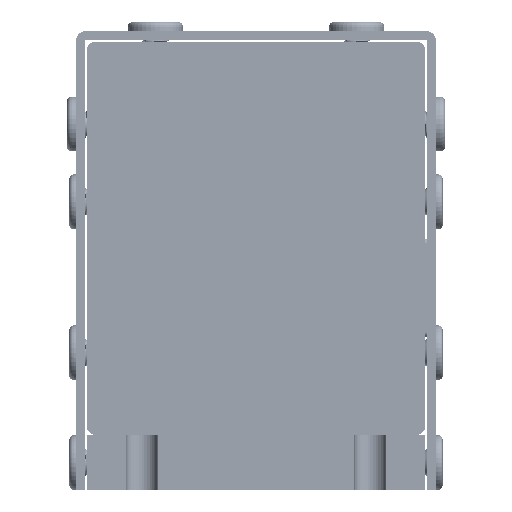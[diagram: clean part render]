
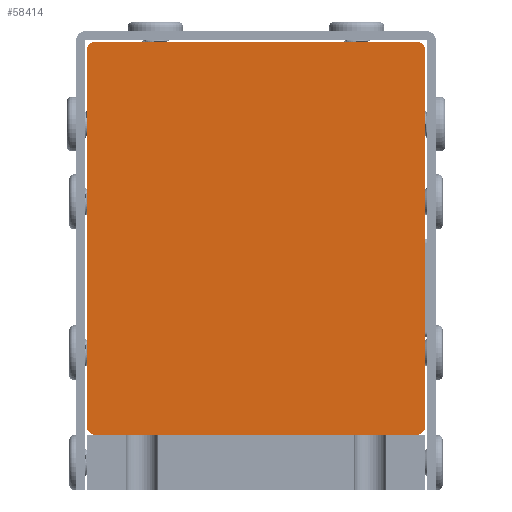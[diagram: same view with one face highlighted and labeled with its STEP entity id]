
A CAD part, left-side view. The second image highlights one B-rep face of the part: STEP entity #58414.
In plain terms, the highlighted planar face has unit normal (-1, 0, 0) as drawn and (0, 1, 0) by its records, which use the part's own axes.
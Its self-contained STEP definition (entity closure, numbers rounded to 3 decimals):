
#830 = EDGE_CURVE ( 'NONE', #1548, #50626, #30115, .T. ) ;
#1192 = EDGE_CURVE ( 'NONE', #24780, #50626, #24941, .T. ) ;
#1548 = VERTEX_POINT ( 'NONE', #71436 ) ;
#1833 = DIRECTION ( 'NONE',  ( -1., 0., 0. ) ) ;
#3787 = ORIENTED_EDGE ( 'NONE', *, *, #26422, .T. ) ;
#4420 = DIRECTION ( 'NONE',  ( 0., 0., -1. ) ) ;
#5844 = CARTESIAN_POINT ( 'NONE',  ( -21., 69.5, 42. ) ) ;
#7260 = AXIS2_PLACEMENT_3D ( 'NONE', #30498, #43712, #4420 ) ;
#7265 = ORIENTED_EDGE ( 'NONE', *, *, #830, .T. ) ;
#7877 = AXIS2_PLACEMENT_3D ( 'NONE', #11727, #57676, #18283 ) ;
#11091 = EDGE_CURVE ( 'NONE', #14323, #34456, #28890, .T. ) ;
#11727 = CARTESIAN_POINT ( 'NONE',  ( 15., 69.5, 1. ) ) ;
#13602 = EDGE_CURVE ( 'NONE', #14323, #62094, #23793, .T. ) ;
#14323 = VERTEX_POINT ( 'NONE', #51102 ) ;
#14892 = AXIS2_PLACEMENT_3D ( 'NONE', #18983, #65027, #25600 ) ;
#16423 = EDGE_LOOP ( 'NONE', ( #67955, #19224, #60805, #49595, #3787, #7265, #57259, #63632 ) ) ;
#16741 = DIRECTION ( 'NONE',  ( 0., 1., 0. ) ) ;
#18283 = DIRECTION ( 'NONE',  ( 0., 0., -1. ) ) ;
#18751 = FACE_OUTER_BOUND ( 'NONE', #16423, .T. ) ;
#18983 = CARTESIAN_POINT ( 'NONE',  ( 15., 69.5, 42. ) ) ;
#19224 = ORIENTED_EDGE ( 'NONE', *, *, #13602, .T. ) ;
#19368 = DIRECTION ( 'NONE',  ( 0., 0., -1. ) ) ;
#20398 = EDGE_CURVE ( 'NONE', #24780, #34456, #41063, .T. ) ;
#21109 = VECTOR ( 'NONE', #81102, 1000. ) ;
#21128 = AXIS2_PLACEMENT_3D ( 'NONE', #41102, #16741, #19368 ) ;
#23397 = DIRECTION ( 'NONE',  ( 0., 1., 0. ) ) ;
#23793 = CIRCLE ( 'NONE', #14892, 1. ) ;
#24780 = VERTEX_POINT ( 'NONE', #5844 ) ;
#24941 = LINE ( 'NONE', #37486, #59977 ) ;
#25600 = DIRECTION ( 'NONE',  ( 0., 0., -1. ) ) ;
#26422 = EDGE_CURVE ( 'NONE', #41898, #1548, #48591, .T. ) ;
#28890 = LINE ( 'NONE', #51037, #81355 ) ;
#29778 = CARTESIAN_POINT ( 'NONE',  ( 16., 69.5, 42. ) ) ;
#30115 = CIRCLE ( 'NONE', #21128, 1. ) ;
#30498 = CARTESIAN_POINT ( 'NONE',  ( -21., 69.5, 56. ) ) ;
#33185 = VECTOR ( 'NONE', #1833, 1000. ) ;
#33810 = DIRECTION ( 'NONE',  ( 0., 0., -1. ) ) ;
#34456 = VERTEX_POINT ( 'NONE', #41919 ) ;
#35105 = CARTESIAN_POINT ( 'NONE',  ( 16., 69.5, 56. ) ) ;
#36081 = VERTEX_POINT ( 'NONE', #52130 ) ;
#37486 = CARTESIAN_POINT ( 'NONE',  ( -21., 69.5, 56. ) ) ;
#41063 = CIRCLE ( 'NONE', #49358, 1. ) ;
#41102 = CARTESIAN_POINT ( 'NONE',  ( -20., 69.5, 1. ) ) ;
#41898 = VERTEX_POINT ( 'NONE', #44222 ) ;
#41919 = CARTESIAN_POINT ( 'NONE',  ( -20., 69.5, 43. ) ) ;
#43712 = DIRECTION ( 'NONE',  ( 0., -1., 0. ) ) ;
#44222 = CARTESIAN_POINT ( 'NONE',  ( 15., 69.5, 0. ) ) ;
#48591 = LINE ( 'NONE', #67322, #33185 ) ;
#49358 = AXIS2_PLACEMENT_3D ( 'NONE', #62837, #23397, #69410 ) ;
#49595 = ORIENTED_EDGE ( 'NONE', *, *, #60196, .T. ) ;
#50626 = VERTEX_POINT ( 'NONE', #52752 ) ;
#51037 = CARTESIAN_POINT ( 'NONE',  ( -21., 69.5, 43. ) ) ;
#51102 = CARTESIAN_POINT ( 'NONE',  ( 15., 69.5, 43. ) ) ;
#52130 = CARTESIAN_POINT ( 'NONE',  ( 16., 69.5, 1. ) ) ;
#52752 = CARTESIAN_POINT ( 'NONE',  ( -21., 69.5, 1. ) ) ;
#56058 = EDGE_CURVE ( 'NONE', #62094, #36081, #71559, .T. ) ;
#57259 = ORIENTED_EDGE ( 'NONE', *, *, #1192, .F. ) ;
#57653 = DIRECTION ( 'NONE',  ( -1., 0., 0. ) ) ;
#57676 = DIRECTION ( 'NONE',  ( 0., 1., 0. ) ) ;
#58414 = ADVANCED_FACE ( 'NONE', ( #18751 ), #69887, .F. ) ;
#59977 = VECTOR ( 'NONE', #33810, 1000. ) ;
#60196 = EDGE_CURVE ( 'NONE', #36081, #41898, #68910, .T. ) ;
#60805 = ORIENTED_EDGE ( 'NONE', *, *, #56058, .T. ) ;
#62094 = VERTEX_POINT ( 'NONE', #29778 ) ;
#62837 = CARTESIAN_POINT ( 'NONE',  ( -20., 69.5, 42. ) ) ;
#63632 = ORIENTED_EDGE ( 'NONE', *, *, #20398, .T. ) ;
#65027 = DIRECTION ( 'NONE',  ( 0., 1., 0. ) ) ;
#67322 = CARTESIAN_POINT ( 'NONE',  ( -21., 69.5, 0. ) ) ;
#67955 = ORIENTED_EDGE ( 'NONE', *, *, #11091, .F. ) ;
#68910 = CIRCLE ( 'NONE', #7877, 1. ) ;
#69410 = DIRECTION ( 'NONE',  ( 0., 0., -1. ) ) ;
#69887 = PLANE ( 'NONE',  #7260 ) ;
#71436 = CARTESIAN_POINT ( 'NONE',  ( -20., 69.5, 0. ) ) ;
#71559 = LINE ( 'NONE', #35105, #21109 ) ;
#81102 = DIRECTION ( 'NONE',  ( 0., 0., -1. ) ) ;
#81355 = VECTOR ( 'NONE', #57653, 1000. ) ;
